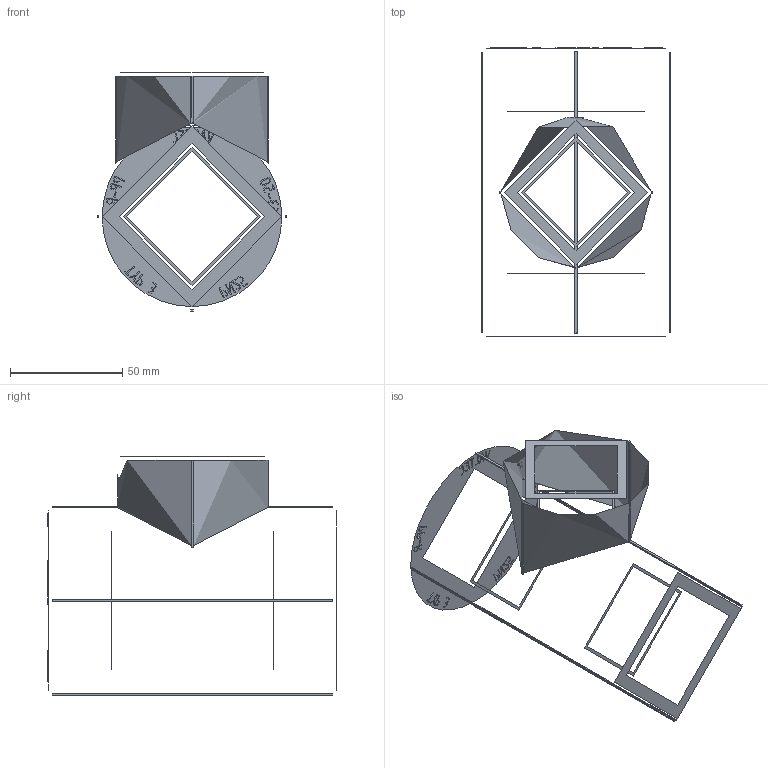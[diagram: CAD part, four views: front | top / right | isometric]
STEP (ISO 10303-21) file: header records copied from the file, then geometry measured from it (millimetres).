
FILE_DESCRIPTION(('STEP AP203'), '1');
FILE_NAME('ÂÐ.752241.071 - VTp.735.0.063050063', '', ('UNSPECIFIED'), ('UNSPECIFIED'), 'C3D Converter', 'C3D Toolkit', '');
FILE_SCHEMA(('CONFIG_CONTROL_DESIGN'));
Length unit declared in the file: millimetre
Products named in the file (1): ВР.752241.071
Bounding box: 84 x 128.5 x 106 mm (x, y, z)
Volume: 221862.7 mm3; surface area: 15721.3 mm2
Topology: 1 solids, 1 shells, 1131 faces, 3166 edges, 2108 vertices
Faces by surface type: extrusion 664, plane 423, cylinder 35, torus 6, cone 3
Full cylindrical faces by diameter (mm): 8 x1, 45.6 x1, 58 x1, 66.6 x7, 67 x18
Entity records: 42162 total; most frequent: CARTESIAN_POINT 16461, ORIENTED_EDGE 6329, DIRECTION 3174, EDGE_CURVE 3166, VECTOR 2150, VERTEX_POINT 2108, B_SPLINE_CURVE_WITH_KNOTS 2002, LINE 1486
